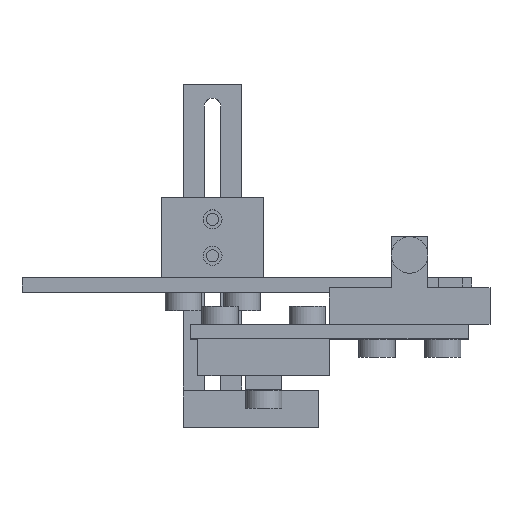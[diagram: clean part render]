
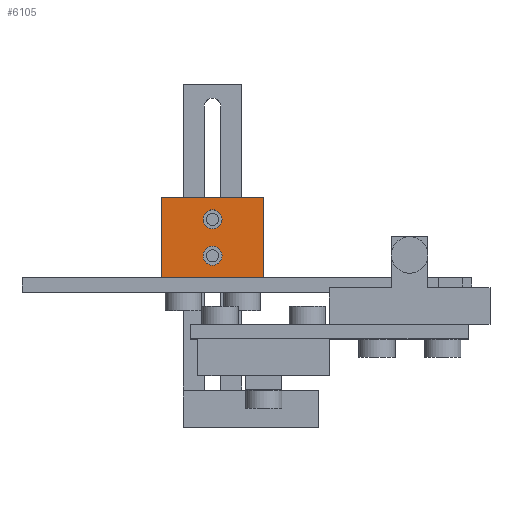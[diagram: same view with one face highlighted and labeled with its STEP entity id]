
A CAD part, top view. The second image highlights one B-rep face of the part: STEP entity #6105.
In plain terms, the highlighted planar face has unit normal (0, 0, 1).
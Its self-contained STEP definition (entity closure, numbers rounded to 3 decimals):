
#5846 = VERTEX_POINT('',#5847);
#5847 = CARTESIAN_POINT('',(-60.,3.,9.3));
#5854 = PLANE('',#5855);
#5855 = AXIS2_PLACEMENT_3D('',#5856,#5857,#5858);
#5856 = CARTESIAN_POINT('',(-60.,3.,-15.7));
#5857 = DIRECTION('',(-1.,-0.,0.));
#5858 = DIRECTION('',(0.,0.,-1.));
#5866 = PLANE('',#5867);
#5867 = AXIS2_PLACEMENT_3D('',#5868,#5869,#5870);
#5868 = CARTESIAN_POINT('',(-60.,3.,-15.7));
#5869 = DIRECTION('',(-0.,1.,0.));
#5870 = DIRECTION('',(0.,0.,-1.));
#5907 = VERTEX_POINT('',#5908);
#5908 = CARTESIAN_POINT('',(-60.,25.,9.3));
#5922 = PLANE('',#5923);
#5923 = AXIS2_PLACEMENT_3D('',#5924,#5925,#5926);
#5924 = CARTESIAN_POINT('',(-60.,25.,-15.7));
#5925 = DIRECTION('',(-0.,1.,0.));
#5926 = DIRECTION('',(0.,0.,-1.));
#5934 = EDGE_CURVE('',#5846,#5907,#5935,.T.);
#5935 = SURFACE_CURVE('',#5936,(#5940,#5947),.PCURVE_S1.);
#5936 = LINE('',#5937,#5938);
#5937 = CARTESIAN_POINT('',(-60.,3.,9.3));
#5938 = VECTOR('',#5939,1.);
#5939 = DIRECTION('',(-0.,1.,0.));
#5940 = PCURVE('',#5854,#5941);
#5941 = DEFINITIONAL_REPRESENTATION('',(#5942),#5946);
#5942 = LINE('',#5943,#5944);
#5943 = CARTESIAN_POINT('',(-25.,-0.));
#5944 = VECTOR('',#5945,1.);
#5945 = DIRECTION('',(-0.,-1.));
#5946 = ( GEOMETRIC_REPRESENTATION_CONTEXT(2)
PARAMETRIC_REPRESENTATION_CONTEXT() REPRESENTATION_CONTEXT('2D SPACE',''
  ) );
#5947 = PCURVE('',#5948,#5953);
#5948 = PLANE('',#5949);
#5949 = AXIS2_PLACEMENT_3D('',#5950,#5951,#5952);
#5950 = CARTESIAN_POINT('',(-60.,3.,9.3));
#5951 = DIRECTION('',(0.,0.,1.));
#5952 = DIRECTION('',(1.,0.,0.));
#5953 = DEFINITIONAL_REPRESENTATION('',(#5954),#5958);
#5954 = LINE('',#5955,#5956);
#5955 = CARTESIAN_POINT('',(0.,-0.));
#5956 = VECTOR('',#5957,1.);
#5957 = DIRECTION('',(-0.,1.));
#5958 = ( GEOMETRIC_REPRESENTATION_CONTEXT(2)
PARAMETRIC_REPRESENTATION_CONTEXT() REPRESENTATION_CONTEXT('2D SPACE',''
  ) );
#5987 = EDGE_CURVE('',#5846,#5988,#5990,.T.);
#5988 = VERTEX_POINT('',#5989);
#5989 = CARTESIAN_POINT('',(-88.,3.,9.3));
#5990 = SURFACE_CURVE('',#5991,(#5995,#6002),.PCURVE_S1.);
#5991 = LINE('',#5992,#5993);
#5992 = CARTESIAN_POINT('',(-60.,3.,9.3));
#5993 = VECTOR('',#5994,1.);
#5994 = DIRECTION('',(-1.,-0.,0.));
#5995 = PCURVE('',#5866,#5996);
#5996 = DEFINITIONAL_REPRESENTATION('',(#5997),#6001);
#5997 = LINE('',#5998,#5999);
#5998 = CARTESIAN_POINT('',(-25.,-0.));
#5999 = VECTOR('',#6000,1.);
#6000 = DIRECTION('',(-0.,1.));
#6001 = ( GEOMETRIC_REPRESENTATION_CONTEXT(2)
PARAMETRIC_REPRESENTATION_CONTEXT() REPRESENTATION_CONTEXT('2D SPACE',''
  ) );
#6002 = PCURVE('',#5948,#6003);
#6003 = DEFINITIONAL_REPRESENTATION('',(#6004),#6008);
#6004 = LINE('',#6005,#6006);
#6005 = CARTESIAN_POINT('',(0.,-0.));
#6006 = VECTOR('',#6007,1.);
#6007 = DIRECTION('',(-1.,0.));
#6008 = ( GEOMETRIC_REPRESENTATION_CONTEXT(2)
PARAMETRIC_REPRESENTATION_CONTEXT() REPRESENTATION_CONTEXT('2D SPACE',''
  ) );
#6024 = PLANE('',#6025);
#6025 = AXIS2_PLACEMENT_3D('',#6026,#6027,#6028);
#6026 = CARTESIAN_POINT('',(-88.,3.,-15.7));
#6027 = DIRECTION('',(-1.,-0.,0.));
#6028 = DIRECTION('',(0.,0.,-1.));
#6105 = ADVANCED_FACE('',(#6106,#6154,#6189),#5948,.T.);
#6106 = FACE_BOUND('',#6107,.F.);
#6107 = EDGE_LOOP('',(#6108,#6109,#6110,#6133));
#6108 = ORIENTED_EDGE('',*,*,#5934,.F.);
#6109 = ORIENTED_EDGE('',*,*,#5987,.T.);
#6110 = ORIENTED_EDGE('',*,*,#6111,.T.);
#6111 = EDGE_CURVE('',#5988,#6112,#6114,.T.);
#6112 = VERTEX_POINT('',#6113);
#6113 = CARTESIAN_POINT('',(-88.,25.,9.3));
#6114 = SURFACE_CURVE('',#6115,(#6119,#6126),.PCURVE_S1.);
#6115 = LINE('',#6116,#6117);
#6116 = CARTESIAN_POINT('',(-88.,3.,9.3));
#6117 = VECTOR('',#6118,1.);
#6118 = DIRECTION('',(-0.,1.,0.));
#6119 = PCURVE('',#5948,#6120);
#6120 = DEFINITIONAL_REPRESENTATION('',(#6121),#6125);
#6121 = LINE('',#6122,#6123);
#6122 = CARTESIAN_POINT('',(-28.,0.));
#6123 = VECTOR('',#6124,1.);
#6124 = DIRECTION('',(-0.,1.));
#6125 = ( GEOMETRIC_REPRESENTATION_CONTEXT(2)
PARAMETRIC_REPRESENTATION_CONTEXT() REPRESENTATION_CONTEXT('2D SPACE',''
  ) );
#6126 = PCURVE('',#6024,#6127);
#6127 = DEFINITIONAL_REPRESENTATION('',(#6128),#6132);
#6128 = LINE('',#6129,#6130);
#6129 = CARTESIAN_POINT('',(-25.,-0.));
#6130 = VECTOR('',#6131,1.);
#6131 = DIRECTION('',(-0.,-1.));
#6132 = ( GEOMETRIC_REPRESENTATION_CONTEXT(2)
PARAMETRIC_REPRESENTATION_CONTEXT() REPRESENTATION_CONTEXT('2D SPACE',''
  ) );
#6133 = ORIENTED_EDGE('',*,*,#6134,.F.);
#6134 = EDGE_CURVE('',#5907,#6112,#6135,.T.);
#6135 = SURFACE_CURVE('',#6136,(#6140,#6147),.PCURVE_S1.);
#6136 = LINE('',#6137,#6138);
#6137 = CARTESIAN_POINT('',(-60.,25.,9.3));
#6138 = VECTOR('',#6139,1.);
#6139 = DIRECTION('',(-1.,-0.,0.));
#6140 = PCURVE('',#5948,#6141);
#6141 = DEFINITIONAL_REPRESENTATION('',(#6142),#6146);
#6142 = LINE('',#6143,#6144);
#6143 = CARTESIAN_POINT('',(0.,22.));
#6144 = VECTOR('',#6145,1.);
#6145 = DIRECTION('',(-1.,0.));
#6146 = ( GEOMETRIC_REPRESENTATION_CONTEXT(2)
PARAMETRIC_REPRESENTATION_CONTEXT() REPRESENTATION_CONTEXT('2D SPACE',''
  ) );
#6147 = PCURVE('',#5922,#6148);
#6148 = DEFINITIONAL_REPRESENTATION('',(#6149),#6153);
#6149 = LINE('',#6150,#6151);
#6150 = CARTESIAN_POINT('',(-25.,-0.));
#6151 = VECTOR('',#6152,1.);
#6152 = DIRECTION('',(-0.,1.));
#6153 = ( GEOMETRIC_REPRESENTATION_CONTEXT(2)
PARAMETRIC_REPRESENTATION_CONTEXT() REPRESENTATION_CONTEXT('2D SPACE',''
  ) );
#6154 = FACE_BOUND('',#6155,.F.);
#6155 = EDGE_LOOP('',(#6156));
#6156 = ORIENTED_EDGE('',*,*,#6157,.F.);
#6157 = EDGE_CURVE('',#6158,#6158,#6160,.T.);
#6158 = VERTEX_POINT('',#6159);
#6159 = CARTESIAN_POINT('',(-76.6,9.,9.3));
#6160 = SURFACE_CURVE('',#6161,(#6166,#6177),.PCURVE_S1.);
#6161 = CIRCLE('',#6162,2.6);
#6162 = AXIS2_PLACEMENT_3D('',#6163,#6164,#6165);
#6163 = CARTESIAN_POINT('',(-74.,9.,9.3));
#6164 = DIRECTION('',(0.,0.,-1.));
#6165 = DIRECTION('',(-1.,-0.,-0.));
#6166 = PCURVE('',#5948,#6167);
#6167 = DEFINITIONAL_REPRESENTATION('',(#6168),#6176);
#6168 = ( BOUNDED_CURVE() B_SPLINE_CURVE(2,(#6169,#6170,#6171,#6172,
#6173,#6174,#6175),.UNSPECIFIED.,.T.,.F.) B_SPLINE_CURVE_WITH_KNOTS((1,2
    ,2,2,2,1),(-2.094,0.,2.094,4.189,
6.283,8.378),.UNSPECIFIED.) CURVE()
GEOMETRIC_REPRESENTATION_ITEM() RATIONAL_B_SPLINE_CURVE((1.,0.5,1.,0.5,
1.,0.5,1.)) REPRESENTATION_ITEM('') );
#6169 = CARTESIAN_POINT('',(-16.6,6.));
#6170 = CARTESIAN_POINT('',(-16.6,10.503));
#6171 = CARTESIAN_POINT('',(-12.7,8.252));
#6172 = CARTESIAN_POINT('',(-8.8,6.));
#6173 = CARTESIAN_POINT('',(-12.7,3.748));
#6174 = CARTESIAN_POINT('',(-16.6,1.497));
#6175 = CARTESIAN_POINT('',(-16.6,6.));
#6176 = ( GEOMETRIC_REPRESENTATION_CONTEXT(2)
PARAMETRIC_REPRESENTATION_CONTEXT() REPRESENTATION_CONTEXT('2D SPACE',''
  ) );
#6177 = PCURVE('',#6178,#6183);
#6178 = CYLINDRICAL_SURFACE('',#6179,2.6);
#6179 = AXIS2_PLACEMENT_3D('',#6180,#6181,#6182);
#6180 = CARTESIAN_POINT('',(-74.,9.,-5.7));
#6181 = DIRECTION('',(-0.,-0.,1.));
#6182 = DIRECTION('',(-1.,-0.,-0.));
#6183 = DEFINITIONAL_REPRESENTATION('',(#6184),#6188);
#6184 = LINE('',#6185,#6186);
#6185 = CARTESIAN_POINT('',(-0.,15.));
#6186 = VECTOR('',#6187,1.);
#6187 = DIRECTION('',(-1.,0.));
#6188 = ( GEOMETRIC_REPRESENTATION_CONTEXT(2)
PARAMETRIC_REPRESENTATION_CONTEXT() REPRESENTATION_CONTEXT('2D SPACE',''
  ) );
#6189 = FACE_BOUND('',#6190,.F.);
#6190 = EDGE_LOOP('',(#6191));
#6191 = ORIENTED_EDGE('',*,*,#6192,.F.);
#6192 = EDGE_CURVE('',#6193,#6193,#6195,.T.);
#6193 = VERTEX_POINT('',#6194);
#6194 = CARTESIAN_POINT('',(-76.6,19.,9.3));
#6195 = SURFACE_CURVE('',#6196,(#6201,#6212),.PCURVE_S1.);
#6196 = CIRCLE('',#6197,2.6);
#6197 = AXIS2_PLACEMENT_3D('',#6198,#6199,#6200);
#6198 = CARTESIAN_POINT('',(-74.,19.,9.3));
#6199 = DIRECTION('',(0.,0.,-1.));
#6200 = DIRECTION('',(-1.,-0.,-0.));
#6201 = PCURVE('',#5948,#6202);
#6202 = DEFINITIONAL_REPRESENTATION('',(#6203),#6211);
#6203 = ( BOUNDED_CURVE() B_SPLINE_CURVE(2,(#6204,#6205,#6206,#6207,
#6208,#6209,#6210),.UNSPECIFIED.,.T.,.F.) B_SPLINE_CURVE_WITH_KNOTS((1,2
    ,2,2,2,1),(-2.094,0.,2.094,4.189,
6.283,8.378),.UNSPECIFIED.) CURVE()
GEOMETRIC_REPRESENTATION_ITEM() RATIONAL_B_SPLINE_CURVE((1.,0.5,1.,0.5,
1.,0.5,1.)) REPRESENTATION_ITEM('') );
#6204 = CARTESIAN_POINT('',(-16.6,16.));
#6205 = CARTESIAN_POINT('',(-16.6,20.503));
#6206 = CARTESIAN_POINT('',(-12.7,18.252));
#6207 = CARTESIAN_POINT('',(-8.8,16.));
#6208 = CARTESIAN_POINT('',(-12.7,13.748));
#6209 = CARTESIAN_POINT('',(-16.6,11.497));
#6210 = CARTESIAN_POINT('',(-16.6,16.));
#6211 = ( GEOMETRIC_REPRESENTATION_CONTEXT(2)
PARAMETRIC_REPRESENTATION_CONTEXT() REPRESENTATION_CONTEXT('2D SPACE',''
  ) );
#6212 = PCURVE('',#6213,#6218);
#6213 = CYLINDRICAL_SURFACE('',#6214,2.6);
#6214 = AXIS2_PLACEMENT_3D('',#6215,#6216,#6217);
#6215 = CARTESIAN_POINT('',(-74.,19.,-5.7));
#6216 = DIRECTION('',(-0.,-0.,1.));
#6217 = DIRECTION('',(-1.,-0.,-0.));
#6218 = DEFINITIONAL_REPRESENTATION('',(#6219),#6223);
#6219 = LINE('',#6220,#6221);
#6220 = CARTESIAN_POINT('',(-0.,15.));
#6221 = VECTOR('',#6222,1.);
#6222 = DIRECTION('',(-1.,0.));
#6223 = ( GEOMETRIC_REPRESENTATION_CONTEXT(2)
PARAMETRIC_REPRESENTATION_CONTEXT() REPRESENTATION_CONTEXT('2D SPACE',''
  ) );
